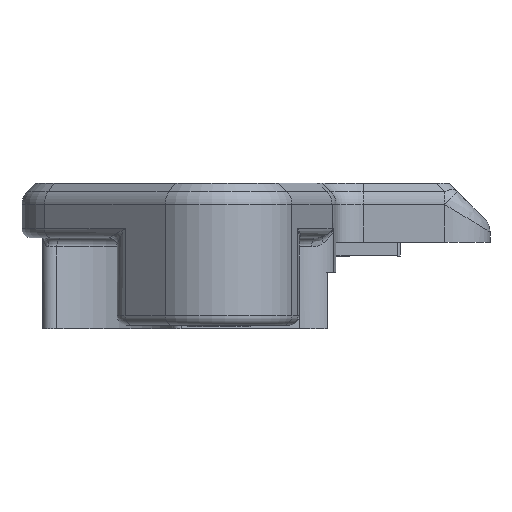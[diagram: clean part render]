
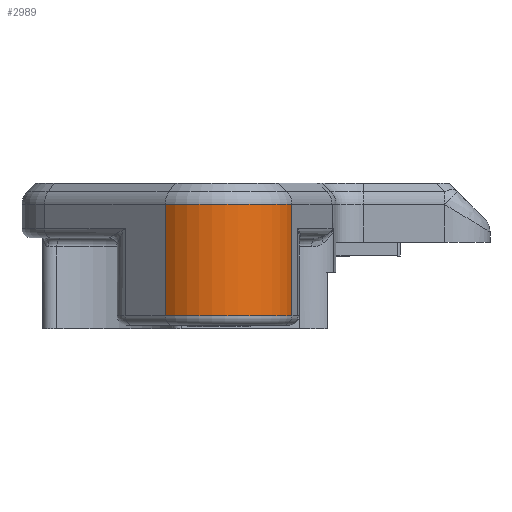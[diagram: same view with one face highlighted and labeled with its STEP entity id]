
A CAD part, front view. The second image highlights one B-rep face of the part: STEP entity #2989.
In plain terms, the highlighted cylindrical face has radius 8.4 mm (diameter 16.8 mm), a partial arc.
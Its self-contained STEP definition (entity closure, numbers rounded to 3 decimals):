
#149=CYLINDRICAL_SURFACE('',#3349,8.4);
#316=FACE_OUTER_BOUND('',#497,.T.);
#497=EDGE_LOOP('',(#2665,#2666,#2667,#2668));
#668=LINE('',#5157,#898);
#742=LINE('',#5533,#972);
#898=VECTOR('',#3884,10.);
#972=VECTOR('',#4264,10.);
#1140=CIRCLE('',#3327,8.4);
#1152=CIRCLE('',#3350,8.4);
#1341=VERTEX_POINT('',#5154);
#1342=VERTEX_POINT('',#5156);
#1414=VERTEX_POINT('',#5486);
#1427=VERTEX_POINT('',#5532);
#1695=EDGE_CURVE('',#1341,#1342,#668,.T.);
#1834=EDGE_CURVE('',#1342,#1414,#1140,.T.);
#1853=EDGE_CURVE('',#1414,#1427,#742,.T.);
#1855=EDGE_CURVE('',#1427,#1341,#1152,.T.);
#2665=ORIENTED_EDGE('',*,*,#1855,.F.);
#2666=ORIENTED_EDGE('',*,*,#1853,.F.);
#2667=ORIENTED_EDGE('',*,*,#1834,.F.);
#2668=ORIENTED_EDGE('',*,*,#1695,.F.);
#2989=ADVANCED_FACE('',(#316),#149,.T.);
#3327=AXIS2_PLACEMENT_3D('',#5491,#4213,#4214);
#3349=AXIS2_PLACEMENT_3D('',#5535,#4266,#4267);
#3350=AXIS2_PLACEMENT_3D('',#5536,#4268,#4269);
#3884=DIRECTION('',(0.,0.,1.));
#4213=DIRECTION('center_axis',(0.,0.,
1.));
#4214=DIRECTION('ref_axis',(0.246,-0.969,0.));
#4264=DIRECTION('',(0.,0.,-1.));
#4266=DIRECTION('center_axis',(0.,0.,
1.));
#4267=DIRECTION('ref_axis',(1.,0.,0.));
#4268=DIRECTION('center_axis',(0.,0.,
-1.));
#4269=DIRECTION('ref_axis',(0.246,-0.969,0.));
#5154=CARTESIAN_POINT('',(-41.781,147.501,79.1));
#5156=CARTESIAN_POINT('',(-41.781,147.501,91.372));
#5157=CARTESIAN_POINT('',(-41.781,147.501,77.7));
#5486=CARTESIAN_POINT('',(-27.845,151.031,91.372));
#5491=CARTESIAN_POINT('Origin',(-35.88,153.48,91.372));
#5532=CARTESIAN_POINT('',(-27.845,151.031,79.1));
#5533=CARTESIAN_POINT('',(-27.845,151.031,77.7));
#5535=CARTESIAN_POINT('Origin',(-35.88,153.48,77.7));
#5536=CARTESIAN_POINT('Origin',(-35.88,153.48,79.1));
